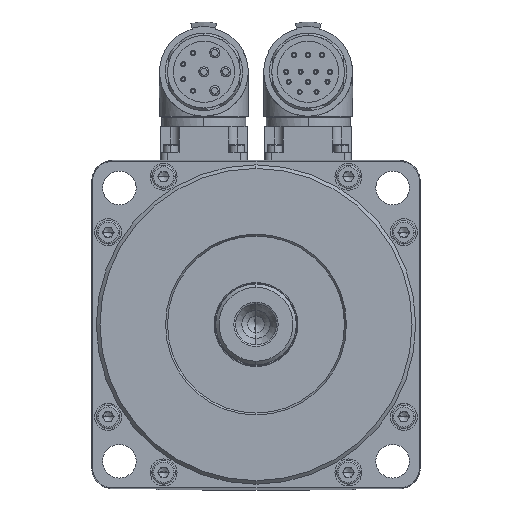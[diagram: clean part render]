
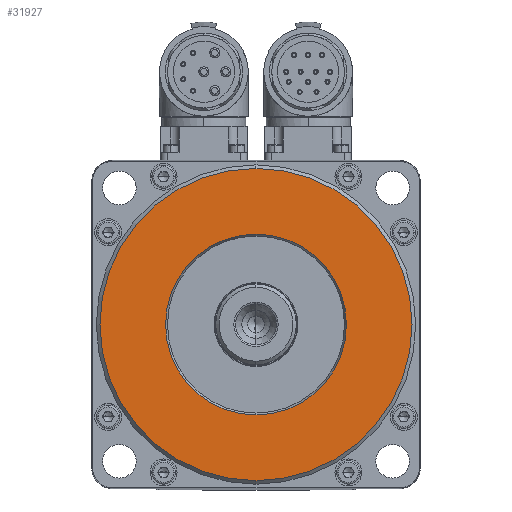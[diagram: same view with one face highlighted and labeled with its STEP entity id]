
A CAD part, top view. The second image highlights one B-rep face of the part: STEP entity #31927.
In plain terms, the highlighted planar face has unit normal (0, 0, 1).
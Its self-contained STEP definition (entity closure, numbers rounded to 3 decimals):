
#486 = ORIENTED_EDGE ( 'NONE', *, *, #25083, .T. ) ;
#2142 = CIRCLE ( 'NONE', #39003, 46.433 ) ;
#2425 = EDGE_CURVE ( 'NONE', #24642, #59683, #32808, .T. ) ;
#2614 = DIRECTION ( 'NONE',  ( 0., 0., -1. ) ) ;
#4604 = CARTESIAN_POINT ( 'NONE',  ( 0., -26.908, 75.864 ) ) ;
#6743 = AXIS2_PLACEMENT_3D ( 'NONE', #30673, #36359, #16538 ) ;
#7960 = CARTESIAN_POINT ( 'NONE',  ( 0., 0., 75.864 ) ) ;
#9600 = CARTESIAN_POINT ( 'NONE',  ( 0., 0., 75.864 ) ) ;
#11787 = EDGE_LOOP ( 'NONE', ( #57048, #31759 ) ) ;
#12942 = DIRECTION ( 'NONE',  ( 0., 1., 0. ) ) ;
#14127 = CARTESIAN_POINT ( 'NONE',  ( 0., 0., 75.864 ) ) ;
#14320 = DIRECTION ( 'NONE',  ( 0., 0., 1. ) ) ;
#15742 = AXIS2_PLACEMENT_3D ( 'NONE', #7960, #42746, #12942 ) ;
#16151 = CARTESIAN_POINT ( 'NONE',  ( 0., -46.433, 75.864 ) ) ;
#16538 = DIRECTION ( 'NONE',  ( 0., 1., 0. ) ) ;
#17579 = PLANE ( 'NONE',  #64038 ) ;
#18916 = DIRECTION ( 'NONE',  ( 0., 0., 1. ) ) ;
#19744 = DIRECTION ( 'NONE',  ( 0., 1., 0. ) ) ;
#21172 = FACE_BOUND ( 'NONE', #11787, .T. ) ;
#24487 = EDGE_CURVE ( 'NONE', #60262, #62585, #44241, .T. ) ;
#24642 = VERTEX_POINT ( 'NONE', #16151 ) ;
#25083 = EDGE_CURVE ( 'NONE', #59683, #24642, #2142, .T. ) ;
#27397 = DIRECTION ( 'NONE',  ( 0., 1., 0. ) ) ;
#30673 = CARTESIAN_POINT ( 'NONE',  ( 0., 0., 75.864 ) ) ;
#31759 = ORIENTED_EDGE ( 'NONE', *, *, #24487, .T. ) ;
#31927 = ADVANCED_FACE ( 'NONE', ( #34408, #21172 ), #17579, .F. ) ;
#32808 = CIRCLE ( 'NONE', #41065, 46.433 ) ;
#34408 = FACE_OUTER_BOUND ( 'NONE', #37410, .T. ) ;
#36359 = DIRECTION ( 'NONE',  ( 0., 0., -1. ) ) ;
#37410 = EDGE_LOOP ( 'NONE', ( #486, #59161 ) ) ;
#39003 = AXIS2_PLACEMENT_3D ( 'NONE', #9600, #18916, #19744 ) ;
#39331 = DIRECTION ( 'NONE',  ( 0., 1., 0. ) ) ;
#40543 = CARTESIAN_POINT ( 'NONE',  ( 0., 26.908, 75.864 ) ) ;
#41065 = AXIS2_PLACEMENT_3D ( 'NONE', #14127, #14320, #39331 ) ;
#42746 = DIRECTION ( 'NONE',  ( 0., 0., -1. ) ) ;
#44241 = CIRCLE ( 'NONE', #15742, 26.908 ) ;
#53049 = CARTESIAN_POINT ( 'NONE',  ( 0., 0., 75.864 ) ) ;
#55938 = CIRCLE ( 'NONE', #6743, 26.908 ) ;
#57048 = ORIENTED_EDGE ( 'NONE', *, *, #59020, .T. ) ;
#59020 = EDGE_CURVE ( 'NONE', #62585, #60262, #55938, .T. ) ;
#59161 = ORIENTED_EDGE ( 'NONE', *, *, #2425, .T. ) ;
#59683 = VERTEX_POINT ( 'NONE', #63668 ) ;
#60262 = VERTEX_POINT ( 'NONE', #40543 ) ;
#62585 = VERTEX_POINT ( 'NONE', #4604 ) ;
#63668 = CARTESIAN_POINT ( 'NONE',  ( 0., 46.433, 75.864 ) ) ;
#64038 = AXIS2_PLACEMENT_3D ( 'NONE', #53049, #2614, #27397 ) ;
